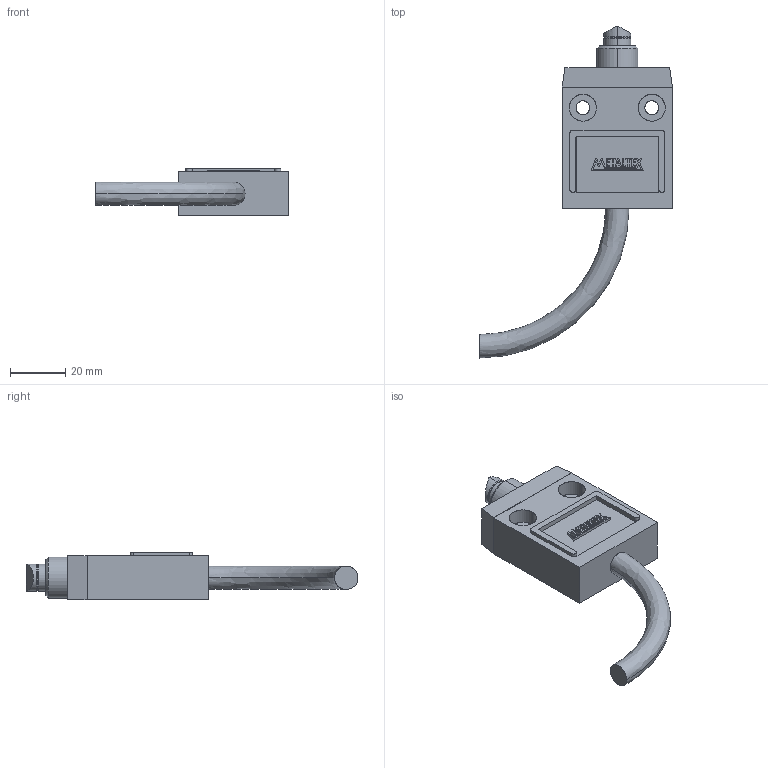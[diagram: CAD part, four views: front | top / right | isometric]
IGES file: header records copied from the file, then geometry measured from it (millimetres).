
Start section: SolidWorks IGES file using analytic representation for surfaces
Global section: file name: D:\X - Arquivos\PROEX\Empresas\P11 - METALTEX\01 - Produtos\IGES\6ª remessa\6ª etapa\IGES\TZ-3110.IGS; native system: SolidWorks 2012; preprocessor: SolidWorks 2012; author: Usuario; date: 190524.105224; units: millimetre
Bounding box: 70 x 120.5 x 17.3 mm (x, y, z)
Surface area: 11758.8 mm2 (no closed solid volume)
Topology: 0 solids, 0 shells, 222 faces, 2098 edges, 2098 vertices
Faces by surface type: bspline 185, revolution 37
